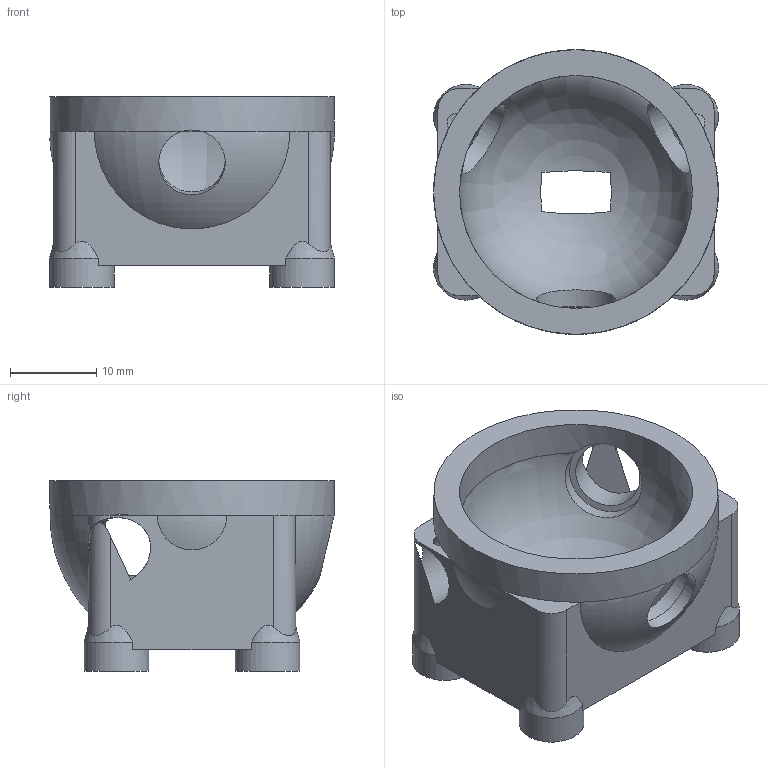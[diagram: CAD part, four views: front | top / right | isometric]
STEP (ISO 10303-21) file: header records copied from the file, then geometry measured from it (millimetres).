
FILE_DESCRIPTION(('Open CASCADE Model'),'2;1');
FILE_NAME('Open CASCADE Shape Model','2026-06-04T07:57:49',('Author'),( 'Open CASCADE'),'Open CASCADE STEP processor 7.6','Open CASCADE 7.6' ,'Unknown');
FILE_SCHEMA(('AP242_MANAGED_MODEL_BASED_3D_ENGINEERING_MIM_LF. {1 0 10303 442 1 1 4 }'));
Length unit declared in the file: millimetre
Products named in the file (1): Open CASCADE STEP translator 7.6 8
Bounding box: 33 x 33 x 22.1 mm (x, y, z)
Volume: 8143.8 mm3; surface area: 5434.9 mm2
Topology: 1 solids, 1 shells, 75 faces, 208 edges, 135 vertices
Faces by surface type: plane 36, cylinder 26, revolution 5, bspline 4, cone 4
Full cylindrical faces by diameter (mm): 3.5 x4, 7.5 x4, 7.7 x3, 9.2 x3, 27 x1, 33 x1
Entity records: 8929 total; most frequent: CARTESIAN_POINT 4958, DIRECTION 689, ORIENTED_EDGE 416, PCURVE 416, DEFINITIONAL_REPRESENTATION 416, LINE 326, VECTOR 326, EDGE_CURVE 208
